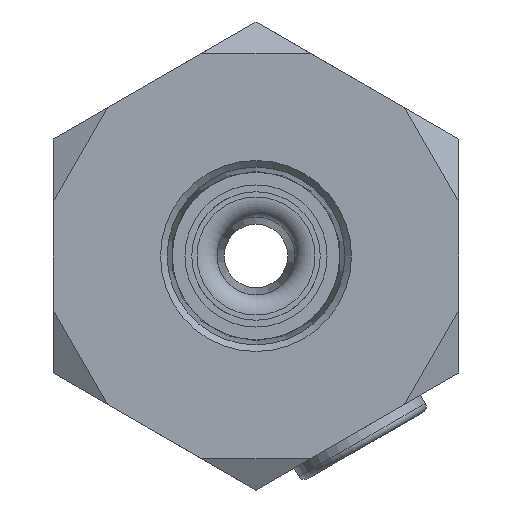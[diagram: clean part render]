
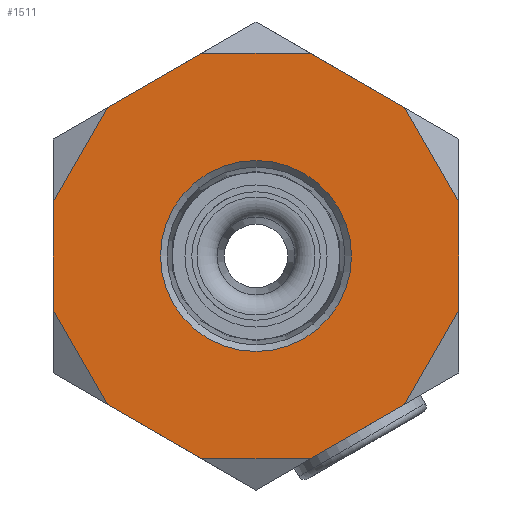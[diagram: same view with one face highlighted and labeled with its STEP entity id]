
A CAD part, left-side view. The second image highlights one B-rep face of the part: STEP entity #1511.
In plain terms, the highlighted planar face has unit normal (-1, 0, 0).
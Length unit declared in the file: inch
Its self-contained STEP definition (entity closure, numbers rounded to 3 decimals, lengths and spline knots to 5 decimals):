
#2 = ORIENTED_EDGE ( 'NONE', *, *, #2061, .F. ) ;
#21 = CARTESIAN_POINT ( 'NONE',  ( 0., 0., -0.29464 ) ) ;
#41 = FACE_BOUND ( 'NONE', #2109, .T. ) ;
#62 = LINE ( 'NONE', #1580, #2718 ) ;
#83 = EDGE_CURVE ( 'NONE', #1247, #1802, #2192, .T. ) ;
#116 = LINE ( 'NONE', #2277, #2401 ) ;
#120 = VECTOR ( 'NONE', #1924, 39.37008 ) ;
#138 = CARTESIAN_POINT ( 'NONE',  ( 0., 0.45753, -0.45753 ) ) ;
#155 = LINE ( 'NONE', #1029, #1184 ) ;
#204 = VERTEX_POINT ( 'NONE', #397 ) ;
#208 = ORIENTED_EDGE ( 'NONE', *, *, #502, .T. ) ;
#230 = CARTESIAN_POINT ( 'NONE',  ( 0., -0.54127, 0.3125 ) ) ;
#245 = EDGE_CURVE ( 'NONE', #2628, #1141, #155, .T. ) ;
#289 = CARTESIAN_POINT ( 'NONE',  ( 0., -0.625, -0.36084 ) ) ;
#305 = CARTESIAN_POINT ( 'NONE',  ( 0., 0.54127, 0.3125 ) ) ;
#324 = EDGE_CURVE ( 'NONE', #384, #2433, #2135, .T. ) ;
#384 = VERTEX_POINT ( 'NONE', #696 ) ;
#397 = CARTESIAN_POINT ( 'NONE',  ( 0., -0.16747, -0.625 ) ) ;
#468 = FACE_OUTER_BOUND ( 'NONE', #1507, .T. ) ;
#502 = EDGE_CURVE ( 'NONE', #2275, #1289, #1166, .T. ) ;
#504 = CARTESIAN_POINT ( 'NONE',  ( 0., -0.16747, 0.625 ) ) ;
#523 = VECTOR ( 'NONE', #2479, 39.37008 ) ;
#586 = CIRCLE ( 'NONE', #1533, 0.29464 ) ;
#588 = EDGE_CURVE ( 'NONE', #2628, #2433, #787, .T. ) ;
#590 = VERTEX_POINT ( 'NONE', #1825 ) ;
#601 = ORIENTED_EDGE ( 'NONE', *, *, #1845, .T. ) ;
#611 = VECTOR ( 'NONE', #1124, 39.37008 ) ;
#640 = DIRECTION ( 'NONE',  ( 1., 0., 0. ) ) ;
#658 = CARTESIAN_POINT ( 'NONE',  ( 0., -0.625, 0.36084 ) ) ;
#661 = DIRECTION ( 'NONE',  ( 1., 0., 0. ) ) ;
#673 = LINE ( 'NONE', #658, #2186 ) ;
#696 = CARTESIAN_POINT ( 'NONE',  ( 0., -0.625, 0.16747 ) ) ;
#726 = CARTESIAN_POINT ( 'NONE',  ( 0., 0.54127, -0.3125 ) ) ;
#787 = LINE ( 'NONE', #2679, #523 ) ;
#804 = CARTESIAN_POINT ( 'NONE',  ( 0., 0.16747, 0.625 ) ) ;
#814 = CARTESIAN_POINT ( 'NONE',  ( 0., -0.625, -0.16747 ) ) ;
#944 = DIRECTION ( 'NONE',  ( 0., -1., 0. ) ) ;
#951 = ORIENTED_EDGE ( 'NONE', *, *, #2409, .T. ) ;
#972 = ORIENTED_EDGE ( 'NONE', *, *, #1276, .F. ) ;
#1006 = DIRECTION ( 'NONE',  ( 0., -0.866, 0.5 ) ) ;
#1011 = CARTESIAN_POINT ( 'NONE',  ( 0., 0., -0.72169 ) ) ;
#1029 = CARTESIAN_POINT ( 'NONE',  ( 0., 0., 0.625 ) ) ;
#1048 = ORIENTED_EDGE ( 'NONE', *, *, #1722, .F. ) ;
#1123 = VECTOR ( 'NONE', #1397, 39.37008 ) ;
#1124 = DIRECTION ( 'NONE',  ( 0., -0.5, -0.866 ) ) ;
#1133 = DIRECTION ( 'NONE',  ( 0., 0.866, -0.5 ) ) ;
#1141 = VERTEX_POINT ( 'NONE', #804 ) ;
#1166 = LINE ( 'NONE', #305, #1560 ) ;
#1184 = VECTOR ( 'NONE', #2666, 39.37008 ) ;
#1247 = VERTEX_POINT ( 'NONE', #2654 ) ;
#1270 = ORIENTED_EDGE ( 'NONE', *, *, #2052, .T. ) ;
#1276 = EDGE_CURVE ( 'NONE', #2275, #1141, #116, .T. ) ;
#1289 = VERTEX_POINT ( 'NONE', #2451 ) ;
#1292 = DIRECTION ( 'NONE',  ( 0., 0., -1. ) ) ;
#1397 = DIRECTION ( 'NONE',  ( 0., 0.866, 0.5 ) ) ;
#1399 = VERTEX_POINT ( 'NONE', #814 ) ;
#1431 = ORIENTED_EDGE ( 'NONE', *, *, #83, .T. ) ;
#1505 = ORIENTED_EDGE ( 'NONE', *, *, #245, .T. ) ;
#1507 = EDGE_LOOP ( 'NONE', ( #2, #1431, #2733, #1270, #1048, #601, #2681, #2501, #1668, #1505, #972, #208 ) ) ;
#1511 = ADVANCED_FACE ( 'NONE', ( #468, #41 ), #2108, .F. ) ;
#1533 = AXIS2_PLACEMENT_3D ( 'NONE', #1670, #640, #2522 ) ;
#1560 = VECTOR ( 'NONE', #2634, 39.37008 ) ;
#1580 = CARTESIAN_POINT ( 'NONE',  ( 0., 0., -0.625 ) ) ;
#1607 = LINE ( 'NONE', #1011, #1123 ) ;
#1661 = CARTESIAN_POINT ( 'NONE',  ( 0., -0.54127, -0.3125 ) ) ;
#1668 = ORIENTED_EDGE ( 'NONE', *, *, #588, .F. ) ;
#1670 = CARTESIAN_POINT ( 'NONE',  ( 0., 0., 0. ) ) ;
#1722 = EDGE_CURVE ( 'NONE', #590, #204, #1763, .T. ) ;
#1728 = CARTESIAN_POINT ( 'NONE',  ( 0., 0.16747, -0.625 ) ) ;
#1763 = LINE ( 'NONE', #289, #2577 ) ;
#1769 = EDGE_CURVE ( 'NONE', #1927, #1802, #1607, .T. ) ;
#1802 = VERTEX_POINT ( 'NONE', #138 ) ;
#1816 = VECTOR ( 'NONE', #2396, 39.37008 ) ;
#1825 = CARTESIAN_POINT ( 'NONE',  ( 0., -0.45753, -0.45753 ) ) ;
#1845 = EDGE_CURVE ( 'NONE', #590, #1399, #2087, .T. ) ;
#1916 = VERTEX_POINT ( 'NONE', #21 ) ;
#1924 = DIRECTION ( 'NONE',  ( 0., 0.5, 0.866 ) ) ;
#1927 = VERTEX_POINT ( 'NONE', #1728 ) ;
#1953 = CARTESIAN_POINT ( 'NONE',  ( 0., 0., 0. ) ) ;
#2007 = CARTESIAN_POINT ( 'NONE',  ( 0., 0.45753, 0.45753 ) ) ;
#2052 = EDGE_CURVE ( 'NONE', #1927, #204, #62, .T. ) ;
#2061 = EDGE_CURVE ( 'NONE', #1247, #1289, #2603, .T. ) ;
#2087 = LINE ( 'NONE', #1661, #2273 ) ;
#2091 = AXIS2_PLACEMENT_3D ( 'NONE', #1953, #661, #2148 ) ;
#2108 = PLANE ( 'NONE',  #2091 ) ;
#2109 = EDGE_LOOP ( 'NONE', ( #951 ) ) ;
#2118 = CARTESIAN_POINT ( 'NONE',  ( 0., -0.45753, 0.45753 ) ) ;
#2135 = LINE ( 'NONE', #230, #120 ) ;
#2148 = DIRECTION ( 'NONE',  ( 0., 1., 0. ) ) ;
#2186 = VECTOR ( 'NONE', #1292, 39.37008 ) ;
#2192 = LINE ( 'NONE', #726, #611 ) ;
#2273 = VECTOR ( 'NONE', #2497, 39.37008 ) ;
#2275 = VERTEX_POINT ( 'NONE', #2007 ) ;
#2277 = CARTESIAN_POINT ( 'NONE',  ( 0., 0.625, 0.36084 ) ) ;
#2396 = DIRECTION ( 'NONE',  ( 0., 0., 1. ) ) ;
#2401 = VECTOR ( 'NONE', #1006, 39.37008 ) ;
#2409 = EDGE_CURVE ( 'NONE', #1916, #1916, #586, .T. ) ;
#2419 = CARTESIAN_POINT ( 'NONE',  ( 0., 0.625, -0.36084 ) ) ;
#2433 = VERTEX_POINT ( 'NONE', #2118 ) ;
#2451 = CARTESIAN_POINT ( 'NONE',  ( 0., 0.625, 0.16747 ) ) ;
#2476 = EDGE_CURVE ( 'NONE', #384, #1399, #673, .T. ) ;
#2479 = DIRECTION ( 'NONE',  ( 0., -0.866, -0.5 ) ) ;
#2497 = DIRECTION ( 'NONE',  ( 0., -0.5, 0.866 ) ) ;
#2501 = ORIENTED_EDGE ( 'NONE', *, *, #324, .T. ) ;
#2522 = DIRECTION ( 'NONE',  ( 0., 0., -1. ) ) ;
#2577 = VECTOR ( 'NONE', #1133, 39.37008 ) ;
#2603 = LINE ( 'NONE', #2419, #1816 ) ;
#2628 = VERTEX_POINT ( 'NONE', #504 ) ;
#2634 = DIRECTION ( 'NONE',  ( 0., 0.5, -0.866 ) ) ;
#2654 = CARTESIAN_POINT ( 'NONE',  ( 0., 0.625, -0.16747 ) ) ;
#2666 = DIRECTION ( 'NONE',  ( 0., 1., 0. ) ) ;
#2679 = CARTESIAN_POINT ( 'NONE',  ( 0., 0., 0.72169 ) ) ;
#2681 = ORIENTED_EDGE ( 'NONE', *, *, #2476, .F. ) ;
#2718 = VECTOR ( 'NONE', #944, 39.37008 ) ;
#2733 = ORIENTED_EDGE ( 'NONE', *, *, #1769, .F. ) ;
